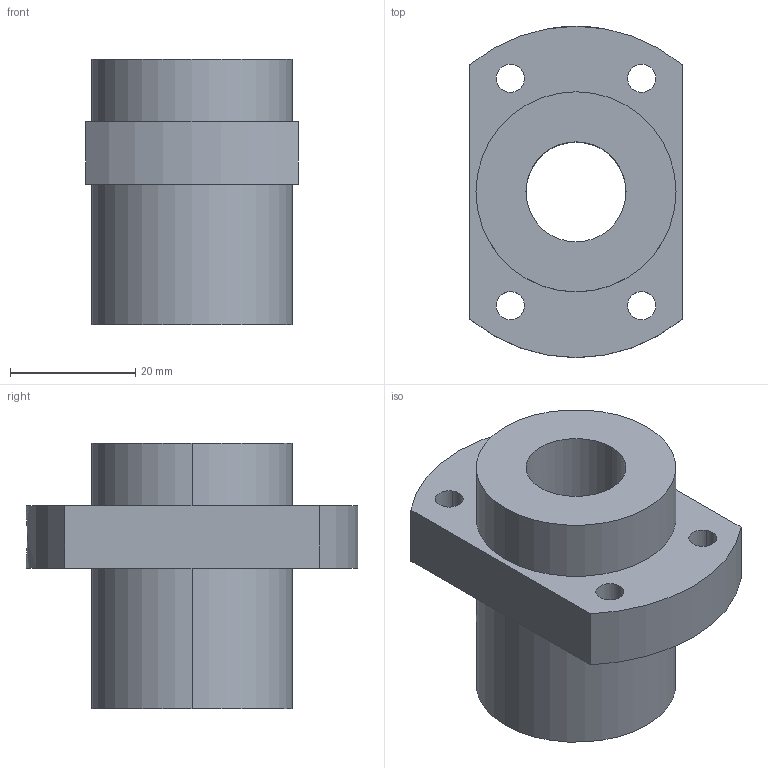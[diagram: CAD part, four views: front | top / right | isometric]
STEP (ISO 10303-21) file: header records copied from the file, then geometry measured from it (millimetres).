
FILE_DESCRIPTION(('STEP AP214'),'1');
FILE_NAME('cgr1632sfyd2_77842_5-.stp','2025-04-30T07:12:24',('TraceParts'),('TraceParts S.A.'),'Spatial InterOp 3D',' ',' ');
FILE_SCHEMA(('AUTOMOTIVE_DESIGN { 1 0 10303 214 1 1 1 1 }'));
Length unit declared in the file: millimetre
Products named in the file (1): cgr1632sfyd2_77842_5-
Bounding box: 34 x 53 x 42.5 mm (x, y, z)
Volume: 33416.1 mm3; surface area: 10543.2 mm2
Topology: 1 solids, 1 shells, 37 faces, 86 edges, 54 vertices
Faces by surface type: cylinder 24, plane 7, cone 6
Entity records: 1510 total; most frequent: CARTESIAN_POINT 294, DIRECTION 204, ORIENTED_EDGE 172, EDGE_CURVE 86, AXIS2_PLACEMENT_3D 84, VERTEX_POINT 54, EDGE_LOOP 52, CIRCLE 46
